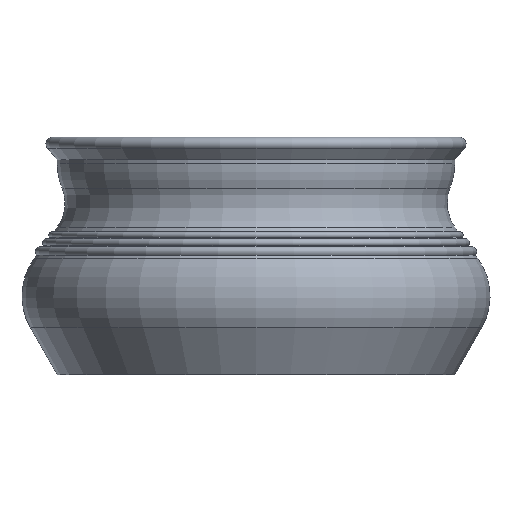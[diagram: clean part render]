
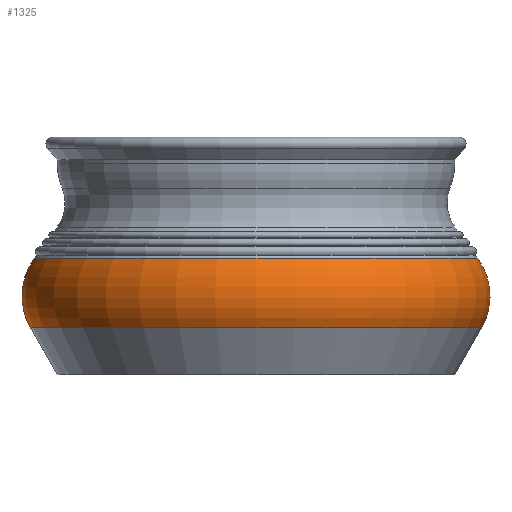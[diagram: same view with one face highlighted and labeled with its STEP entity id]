
A CAD part, front view. The second image highlights one B-rep face of the part: STEP entity #1325.
In plain terms, the highlighted toroidal (fillet/blend) face has major radius 125.496 mm and minor radius 46.864 mm.
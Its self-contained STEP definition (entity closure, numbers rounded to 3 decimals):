
#22=TOROIDAL_SURFACE('',#1505,125.496,46.864);
#166=FACE_OUTER_BOUND('',#284,.T.);
#284=EDGE_LOOP('',(#1208,#1209,#1210,#1211));
#526=CIRCLE('',#1467,166.201);
#549=CIRCLE('',#1506,163.261);
#550=CIRCLE('',#1507,46.864);
#653=VERTEX_POINT('',#2240);
#669=VERTEX_POINT('',#2303);
#818=EDGE_CURVE('',#653,#653,#526,.T.);
#849=EDGE_CURVE('',#669,#669,#549,.T.);
#850=EDGE_CURVE('',#669,#653,#550,.T.);
#1208=ORIENTED_EDGE('',*,*,#849,.F.);
#1209=ORIENTED_EDGE('',*,*,#850,.T.);
#1210=ORIENTED_EDGE('',*,*,#818,.T.);
#1211=ORIENTED_EDGE('',*,*,#850,.F.);
#1325=ADVANCED_FACE('',(#166),#22,.T.);
#1467=AXIS2_PLACEMENT_3D('',#2241,#1837,#1838);
#1505=AXIS2_PLACEMENT_3D('',#2302,#1921,#1922);
#1506=AXIS2_PLACEMENT_3D('',#2304,#1923,#1924);
#1507=AXIS2_PLACEMENT_3D('',#2305,#1925,#1926);
#1837=DIRECTION('center_axis',(0.,0.,1.));
#1838=DIRECTION('ref_axis',(1.,0.,0.));
#1921=DIRECTION('center_axis',(0.,0.,1.));
#1922=DIRECTION('ref_axis',(1.,0.,0.));
#1923=DIRECTION('center_axis',(0.,0.,1.));
#1924=DIRECTION('ref_axis',(1.,0.,0.));
#1925=DIRECTION('center_axis',(0.,-1.,0.));
#1926=DIRECTION('ref_axis',(-1.,0.,0.));
#2240=CARTESIAN_POINT('',(-166.201,0.,34.776));
#2241=CARTESIAN_POINT('Origin',(0.,0.,34.776));
#2302=CARTESIAN_POINT('Origin',(0.,0.,58.));
#2303=CARTESIAN_POINT('',(-163.261,0.,85.75));
#2304=CARTESIAN_POINT('Origin',(0.,0.,85.75));
#2305=CARTESIAN_POINT('Origin',(-125.496,0.,
58.));
